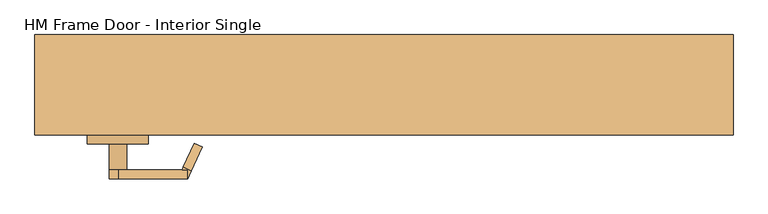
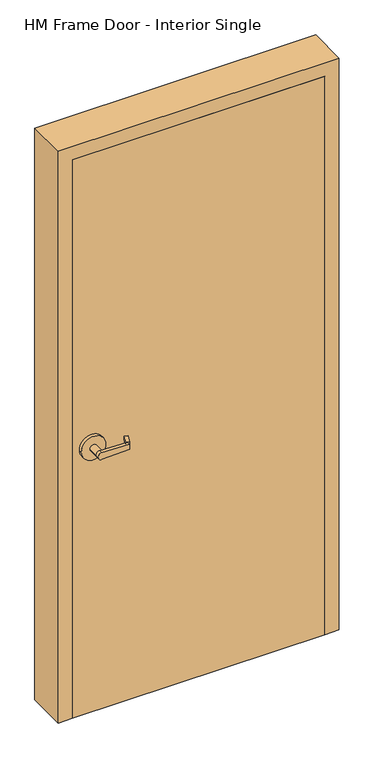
"""IFC4 building model written with IfcOpenShell, lengths in millimetres: door geometry."""

from ifc_helpers import new_model, si_unit, frame, origin, origin_with_axes, place, context, project, spatial, polyline, circle_curve, outline, extrude, faceted_brep, source, transform, mapped, element, save
from ifc_brep_helpers import plane_surface, cylinder_surface, advanced_brep


def hm_frame_door_interior_single_4ead148d(model_context):
    return source(origin(), model_context, "Body", "SolidModel", [
        advanced_brep(
        [(-291.892857, 18.0476392, 1025.525), (-293.8407923, 22.225, 1025.525), (-293.8407923, 22.225, 1006.475), (-291.892857, 18.0476392, 1006.475), (-275.7911012, -16.4826875, 1009.65), (-275.7911012, -16.4826875, 1022.35), (-285.75, 34.925, 1006.475), (-285.75, 34.925, 1025.525), (-280.3827481, 23.4148911, 1025.525), (-264.2809923, -11.1154356, 1022.35), (-264.2809923, -11.1154356, 1009.65), (-280.3827481, 23.4148911, 1006.475), (-285.75, 22.225, 1025.525), (-285.75, 22.225, 1006.475), (-386.9525418, 34.925, 1003.3062209), (-386.9525418, 34.925, 1028.6937791), (-386.9525418, 22.225, 1028.6937791), (-374.65, 22.225, 1016.0), (-386.9525418, 22.225, 1003.3062209), (-400.05, 22.225, 1016.0), (-374.65, -15.875, 1016.0), (-400.05, -15.875, 1016.0), (-431.8, -15.875, 1016.0), (-342.9, -15.875, 1016.0), (-431.8, -28.575, 1016.0), (-342.9, -28.575, 1016.0)],
        [
            (0, 1),
            (1, 2),
            (2, 3),
            (3, 4),
            (4, 5),
            (5, 0),
            (6, 7),
            (7, 8),
            (8, 9),
            (9, 10),
            (10, 11),
            (11, 6),
            (7, 12),
            (12, 1),
            (0, 8),
            (5, 9),
            (4, 10),
            (3, 11),
            (2, 13),
            (13, 6),
            (6, 14),
            (14, 15, circle_curve(frame((-387.35, 34.925, 1016.0), z_axis=(0.0, 1.0, 0.0), x_axis=(1.0, 0.0, 0.0)), 12.7)),
            (15, 7),
            (12, 16),
            (16, 17, circle_curve(frame((-387.35, 22.225, 1016.0), z_axis=(0.0, 1.0, 0.0), x_axis=(1.0, 0.0, 0.0)), 12.7)),
            (17, 18, circle_curve(frame((-387.35, 22.225, 1016.0), z_axis=(0.0, 1.0, 0.0), x_axis=(1.0, 0.0, 0.0)), 12.7)),
            (18, 13),
            (15, 16),
            (14, 18),
            (18, 19, circle_curve(frame((-387.35, 22.225, 1016.0), z_axis=(0.0, 1.0, 0.0), x_axis=(1.0, 0.0, 0.0)), 12.7)),
            (19, 16, circle_curve(frame((-387.35, 22.225, 1016.0), z_axis=(0.0, 1.0, 0.0), x_axis=(1.0, 0.0, 0.0)), 12.7)),
            (17, 20),
            (20, 21, circle_curve(frame((-387.35, -15.875, 1016.0), z_axis=(0.0, 1.0, 0.0), x_axis=(1.0, 0.0, 0.0)), 12.7)),
            (21, 19),
            (21, 20, circle_curve(frame((-387.35, -15.875, 1016.0), z_axis=(0.0, 1.0, 0.0), x_axis=(1.0, 0.0, 0.0)), 12.7)),
            (22, 23, circle_curve(frame((-387.35, -15.875, 1016.0), z_axis=(0.0, 1.0, 0.0), x_axis=(1.0, 0.0, 0.0)), 44.45)),
            (23, 22, circle_curve(frame((-387.35, -15.875, 1016.0), z_axis=(0.0, 1.0, 0.0), x_axis=(1.0, 0.0, 0.0)), 44.45)),
            (24, 25, circle_curve(frame((-387.35, -28.575, 1016.0), z_axis=(0.0, -1.0, 0.0), x_axis=(1.0, 0.0, 0.0)), 44.45)),
            (25, 24, circle_curve(frame((-387.35, -28.575, 1016.0), z_axis=(0.0, -1.0, 0.0), x_axis=(1.0, 0.0, 0.0)), 44.45)),
            (23, 25),
            (24, 22),
        ],
        [
            plane_surface(frame((-297.2601089, 29.5577481, 1025.525), z_axis=(-0.9063077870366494, -0.4226182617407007, 0.0), x_axis=(0.0, 0.0, 1.0))),
            plane_surface(frame((-285.75, 34.925, 1025.525), z_axis=(0.9063077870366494, 0.4226182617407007, 0.0), x_axis=(0.0, 0.0, -1.0))),
            plane_surface(frame((-297.2601089, 29.5577481, 1025.525), z_axis=(0.0, 0.0, 1.0000000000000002), x_axis=(0.9063077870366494, 0.42261826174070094, 0.0))),
            plane_surface(frame((-291.892857, 18.0476392, 1025.525), z_axis=(0.035096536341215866, -0.07526476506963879, 0.9965457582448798), x_axis=(0.9063077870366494, 0.42261826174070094, 0.0))),
            plane_surface(frame((-275.7911012, -16.4826875, 1022.35), z_axis=(0.42261826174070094, -0.9063077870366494, 0.0), x_axis=(0.9063077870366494, 0.42261826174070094, 0.0))),
            plane_surface(frame((-275.7911012, -16.4826875, 1009.65), z_axis=(0.03509653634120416, -0.07526476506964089, -0.9965457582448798), x_axis=(0.9063077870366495, 0.42261826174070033, 0.0))),
            plane_surface(frame((-291.892857, 18.0476392, 1006.475), z_axis=(0.0, 0.0, -1.0000000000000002), x_axis=(0.9063077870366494, 0.42261826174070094, 0.0))),
            plane_surface(frame((-285.75, 34.925, 1025.525), z_axis=(0.0, 1.0, 0.0), x_axis=(-0.9995101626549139, 0.0, 0.03129592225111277))),
            plane_surface(frame((-285.75, 22.225, 1025.525), z_axis=(0.0, -1.0, 0.0), x_axis=(0.9995101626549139, 0.0, -0.03129592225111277))),
            plane_surface(frame((-285.75, 34.925, 1025.525), z_axis=(0.03129592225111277, 0.0, 0.9995101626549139), x_axis=(0.0, -1.0, 0.0))),
            cylinder_surface(frame((-387.35, 22.225, 1016.0), z_axis=(0.0, 1.0, 0.0), x_axis=(1.0, 0.0, 0.0)), 12.7),
            plane_surface(frame((-386.9525418, 34.925, 1003.3062209), z_axis=(0.03129592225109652, 0.0, -0.9995101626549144), x_axis=(0.0, -1.0, 0.0))),
            cylinder_surface(frame((-387.35, -15.875, 1016.0), z_axis=(0.0, 1.0, 0.0), x_axis=(1.0, 0.0, 0.0)), 12.7),
            plane_surface(frame((-342.9, -15.875, 1016.0), z_axis=(0.0, 1.0, 0.0), x_axis=(0.0, 0.0, 1.0))),
            plane_surface(frame((-342.9, -28.575, 1016.0), z_axis=(0.0, -1.0, 0.0), x_axis=(0.0, 0.0, -1.0))),
            cylinder_surface(frame((-387.35, -28.575, 1016.0), z_axis=(0.0, 1.0, 0.0), x_axis=(1.0, 0.0, 0.0)), 44.45),
        ],
        [
            (0, [[1, 2, 3, 4, 5, 6]]),
            (1, [[7, 8, 9, 10, 11, 12]]),
            (2, [[13, 14, -1, 15, -8]]),
            (3, [[16, -9, -15, -6]]),
            (4, [[17, -10, -16, -5]]),
            (5, [[18, -11, -17, -4]]),
            (6, [[-18, -3, 19, 20, -12]]),
            (7, [[-7, 21, 22, 23]]),
            (8, [[-19, -2, -14, 24, 25, 26, 27]]),
            (9, [[28, -24, -13, -23]]),
            (10, [[29, 30, 31, -28, -22]]),
            (11, [[-20, -27, -29, -21]]),
            (12, [[-30, -26, 32, 33, 34]]),
            (12, [[35, -32, -25, -31, -34]]),
            (13, [[36, 37], [-35, -33]]),
            (14, [[38, 39]]),
            (15, [[40, -38, 41, -37]]),
            (15, [[-41, -39, -40, -36]]),
        ],
    ),
        advanced_brep(
        [(-291.892857, -119.6476392, 1006.475), (-293.8407923, -123.825, 1006.475), (-293.8407923, -123.825, 1025.525), (-291.892857, -119.6476392, 1025.525), (-275.7911012, -85.1173125, 1022.35), (-275.7911012, -85.1173125, 1009.65), (-285.75, -136.525, 1025.525), (-285.75, -136.525, 1006.475), (-280.3827481, -125.0148911, 1006.475), (-264.2809923, -90.4845644, 1009.65), (-264.2809923, -90.4845644, 1022.35), (-280.3827481, -125.0148911, 1025.525), (-285.75, -123.825, 1006.475), (-285.75, -123.825, 1025.525), (-386.9525418, -136.525, 1028.6937791), (-386.9525418, -136.525, 1003.3062209), (-386.9525418, -123.825, 1003.3062209), (-374.65, -123.825, 1016.0), (-386.9525418, -123.825, 1028.6937791), (-400.05, -123.825, 1016.0), (-374.65, -85.725, 1016.0), (-400.05, -85.725, 1016.0), (-431.8, -85.725, 1016.0), (-342.9, -85.725, 1016.0), (-431.8, -73.025, 1016.0), (-342.9, -73.025, 1016.0)],
        [
            (0, 1),
            (1, 2),
            (2, 3),
            (3, 4),
            (4, 5),
            (5, 0),
            (6, 7),
            (7, 8),
            (8, 9),
            (9, 10),
            (10, 11),
            (11, 6),
            (7, 12),
            (12, 1),
            (0, 8),
            (5, 9),
            (4, 10),
            (3, 11),
            (2, 13),
            (13, 6),
            (6, 14),
            (14, 15, circle_curve(frame((-387.35, -136.525, 1016.0), z_axis=(0.0, -1.0, 0.0), x_axis=(1.0, 0.0, 0.0)), 12.7)),
            (15, 7),
            (12, 16),
            (16, 17, circle_curve(frame((-387.35, -123.825, 1016.0), z_axis=(0.0, -1.0, 0.0), x_axis=(1.0, 0.0, 0.0)), 12.7)),
            (17, 18, circle_curve(frame((-387.35, -123.825, 1016.0), z_axis=(0.0, -1.0, 0.0), x_axis=(1.0, 0.0, 0.0)), 12.7)),
            (18, 13),
            (15, 16),
            (14, 18),
            (18, 19, circle_curve(frame((-387.35, -123.825, 1016.0), z_axis=(0.0, -1.0, 0.0), x_axis=(1.0, 0.0, 0.0)), 12.7)),
            (19, 16, circle_curve(frame((-387.35, -123.825, 1016.0), z_axis=(0.0, -1.0, 0.0), x_axis=(1.0, 0.0, 0.0)), 12.7)),
            (17, 20),
            (20, 21, circle_curve(frame((-387.35, -85.725, 1016.0), z_axis=(0.0, -1.0, 0.0), x_axis=(1.0, 0.0, 0.0)), 12.7)),
            (21, 19),
            (21, 20, circle_curve(frame((-387.35, -85.725, 1016.0), z_axis=(0.0, -1.0, 0.0), x_axis=(1.0, 0.0, 0.0)), 12.7)),
            (22, 23, circle_curve(frame((-387.35, -85.725, 1016.0), z_axis=(0.0, -1.0, 0.0), x_axis=(1.0, 0.0, 0.0)), 44.45)),
            (23, 22, circle_curve(frame((-387.35, -85.725, 1016.0), z_axis=(0.0, -1.0, 0.0), x_axis=(1.0, 0.0, 0.0)), 44.45)),
            (24, 25, circle_curve(frame((-387.35, -73.025, 1016.0), z_axis=(0.0, 1.0, 0.0), x_axis=(1.0, 0.0, 0.0)), 44.45)),
            (25, 24, circle_curve(frame((-387.35, -73.025, 1016.0), z_axis=(0.0, 1.0, 0.0), x_axis=(1.0, 0.0, 0.0)), 44.45)),
            (23, 25),
            (24, 22),
        ],
        [
            plane_surface(frame((-297.2601089, -131.1577481, 1006.475), z_axis=(-0.9063077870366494, 0.4226182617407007, 0.0), x_axis=(0.0, 0.0, -1.0))),
            plane_surface(frame((-285.75, -136.525, 1006.475), z_axis=(0.9063077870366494, -0.4226182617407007, 0.0), x_axis=(0.0, 0.0, 1.0))),
            plane_surface(frame((-297.2601089, -131.1577481, 1006.475), z_axis=(0.0, 0.0, -1.0000000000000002), x_axis=(0.9063077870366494, -0.42261826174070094, 0.0))),
            plane_surface(frame((-291.892857, -119.6476392, 1006.475), z_axis=(0.03509653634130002, 0.07526476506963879, -0.9965457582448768), x_axis=(0.9063077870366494, -0.42261826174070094, 0.0))),
            plane_surface(frame((-275.7911012, -85.1173125, 1009.65), z_axis=(0.42261826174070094, 0.9063077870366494, 0.0), x_axis=(0.9063077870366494, -0.42261826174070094, 0.0))),
            plane_surface(frame((-275.7911012, -85.1173125, 1022.35), z_axis=(0.03509653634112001, 0.07526476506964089, 0.9965457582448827), x_axis=(0.9063077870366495, -0.42261826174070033, 0.0))),
            plane_surface(frame((-291.892857, -119.6476392, 1025.525), z_axis=(0.0, 0.0, 1.0000000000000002), x_axis=(0.9063077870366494, -0.42261826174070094, 0.0))),
            plane_surface(frame((-285.75, -136.525, 1006.475), z_axis=(0.0, -1.0, 0.0), x_axis=(-0.9995101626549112, 0.0, -0.03129592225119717))),
            plane_surface(frame((-285.75, -123.825, 1006.475), z_axis=(0.0, 1.0, 0.0), x_axis=(0.9995101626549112, 0.0, 0.03129592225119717))),
            plane_surface(frame((-285.75, -136.525, 1006.475), z_axis=(0.03129592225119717, 0.0, -0.9995101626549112), x_axis=(0.0, 1.0, 0.0))),
            cylinder_surface(frame((-387.35, -123.825, 1016.0), z_axis=(0.0, -1.0, 0.0), x_axis=(1.0, 0.0, 0.0)), 12.7),
            plane_surface(frame((-386.9525418, -136.525, 1028.6937791), z_axis=(0.031295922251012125, 0.0, 0.9995101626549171), x_axis=(0.0, 1.0, 0.0))),
            cylinder_surface(frame((-387.35, -85.725, 1016.0), z_axis=(0.0, -1.0, 0.0), x_axis=(1.0, 0.0, 0.0)), 12.7),
            plane_surface(frame((-342.9, -85.725, 1016.0), z_axis=(0.0, -1.0, 0.0), x_axis=(0.0, 0.0, -1.0))),
            plane_surface(frame((-342.9, -73.025, 1016.0), z_axis=(0.0, 1.0, 0.0), x_axis=(0.0, 0.0, 1.0))),
            cylinder_surface(frame((-387.35, -73.025, 1016.0), z_axis=(0.0, -1.0, 0.0), x_axis=(1.0, 0.0, 0.0)), 44.45),
        ],
        [
            (0, [[1, 2, 3, 4, 5, 6]]),
            (1, [[7, 8, 9, 10, 11, 12]]),
            (2, [[13, 14, -1, 15, -8]]),
            (3, [[16, -9, -15, -6]]),
            (4, [[17, -10, -16, -5]]),
            (5, [[18, -11, -17, -4]]),
            (6, [[-18, -3, 19, 20, -12]]),
            (7, [[-7, 21, 22, 23]]),
            (8, [[-19, -2, -14, 24, 25, 26, 27]]),
            (9, [[28, -24, -13, -23]]),
            (10, [[29, 30, 31, -28, -22]]),
            (11, [[-20, -27, -29, -21]]),
            (12, [[-30, -26, 32, 33, 34]]),
            (12, [[35, -32, -25, -31, -34]]),
            (13, [[36, 37], [-35, -33]]),
            (14, [[38, 39]]),
            (15, [[40, -38, 41, -37]]),
            (15, [[-41, -39, -40, -36]]),
        ],
    ),
        faceted_brep([(508.0, -73.025, 0.0), (457.2, -73.025, 0.0), (457.2, -28.575, 0.0), (441.325, -28.575, 0.0), (441.325, 28.575, 0.0), (457.2, 28.575, 0.0), (457.2, 73.025, 0.0), (508.0, 73.025, 0.0), (508.0, 73.025, 2184.4), (508.0, -73.025, 2184.4), (457.2, 73.025, 2133.6), (-457.2, 73.025, 2133.6), (-457.2, 73.025, 0.0), (-508.0, 73.025, 0.0), (-508.0, 73.025, 2184.4), (457.2, 28.575, 2133.6), (441.325, 28.575, 2117.725), (-441.325, 28.575, 2117.725), (-441.325, 28.575, 0.0), (-457.2, 28.575, 0.0), (-457.2, 28.575, 2133.6), (441.325, -28.575, 2117.725), (457.2, -28.575, 2133.6), (-457.2, -28.575, 2133.6), (-457.2, -28.575, 0.0), (-441.325, -28.575, 0.0), (-441.325, -28.575, 2117.725), (457.2, -73.025, 2133.6), (-508.0, -73.025, 2184.4), (-508.0, -73.025, 0.0), (-457.2, -73.025, 0.0), (-457.2, -73.025, 2133.6)], [[[0, 1, 2, 3, 4, 5, 6, 7]], [[0, 7, 8, 9]], [[6, 10, 11, 12, 13, 14, 8, 7]], [[5, 15, 10, 6]], [[4, 16, 17, 18, 19, 20, 15, 5]], [[3, 21, 16, 4]], [[2, 22, 23, 24, 25, 26, 21, 3]], [[1, 27, 22, 2]], [[0, 9, 28, 29, 30, 31, 27, 1]], [[8, 14, 28, 9]], [[15, 20, 11, 10]], [[21, 26, 17, 16]], [[27, 31, 23, 22]], [[13, 12, 19, 18, 25, 24, 30, 29]], [[14, 13, 29, 28]], [[20, 19, 12, 11]], [[26, 25, 18, 17]], [[31, 30, 24, 23]]]),
        extrude(outline(polyline([(-457.2, -73.025), (-457.2, -28.575), (457.2, -28.575), (457.2, -73.025), (-457.2, -73.025)])), origin_with_axes(), (0.0, 0.0, 1.0), 2133.6),
    ])


if __name__ == "__main__":
    model = new_model("IFC4")
    model_context = context("Model", 3, world=origin())
    ifc_project = project(units=[si_unit("LENGTHUNIT", "METRE", prefix="MILLI")], contexts=[model_context])
    site = spatial("IfcSite", under=ifc_project)
    building = spatial("IfcBuilding", under=site)
    placement = place(None, origin())
    hm_frame_door_interior_single_shape = hm_frame_door_interior_single_4ead148d(model_context)
    element("IfcDoor", 1, ObjectType="HM Frame Door - Interior Single : 36\" x 84\" x 5.75\" WD Door", at=placement, inside=building, context=model_context, shape_type="MappedRepresentation", body=[
        mapped(hm_frame_door_interior_single_shape, transform((0.0, 0.0, 0.0), x_axis=(1.0, 0.0, 0.0), y_axis=(0.0, 1.0, 0.0), z_axis=(0.0, 0.0, 1.0))),
    ])
    save(model, "model.ifc")
